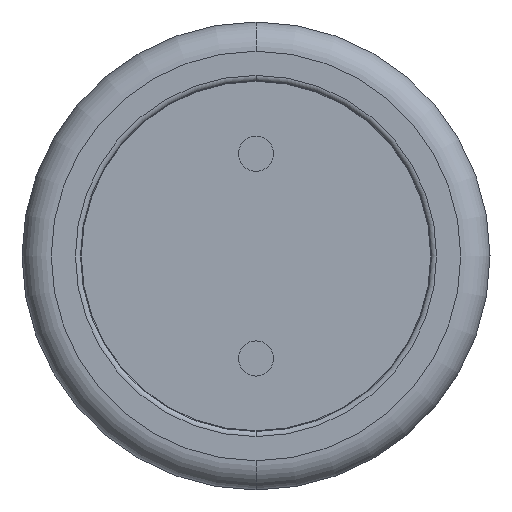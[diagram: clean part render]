
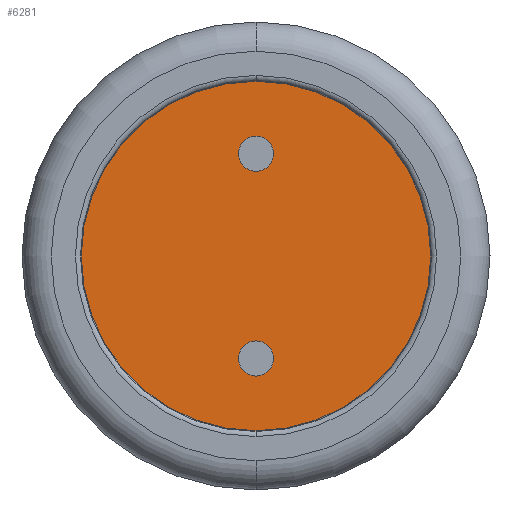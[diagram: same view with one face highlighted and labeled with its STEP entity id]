
A CAD part, left-side view. The second image highlights one B-rep face of the part: STEP entity #6281.
In plain terms, the highlighted planar face has unit normal (-1, 0, 0).
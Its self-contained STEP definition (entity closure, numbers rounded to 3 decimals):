
#40=CARTESIAN_POINT('',(-11.3,0.,0.002));
#41=DIRECTION('',(-1.,0.,0.));
#42=DIRECTION('',(0.,0.,-1.));
#43=AXIS2_PLACEMENT_3D('',#40,#41,#42);
#45=CARTESIAN_POINT('',(-11.3,0.,0.002));
#46=DIRECTION('',(1.,0.,0.));
#47=DIRECTION('',(0.,0.,-1.));
#48=AXIS2_PLACEMENT_3D('',#45,#46,#47);
#50=CARTESIAN_POINT('',(-11.3,0.,-1.75));
#51=DIRECTION('',(-1.,0.,0.));
#52=DIRECTION('',(0.,0.,-1.));
#53=AXIS2_PLACEMENT_3D('',#50,#51,#52);
#55=CARTESIAN_POINT('',(-11.3,0.,-1.75));
#56=DIRECTION('',(-1.,0.,0.));
#57=DIRECTION('',(0.,0.,1.));
#58=AXIS2_PLACEMENT_3D('',#55,#56,#57);
#60=CARTESIAN_POINT('',(-11.3,0.,1.75));
#61=DIRECTION('',(-1.,0.,0.));
#62=DIRECTION('',(0.,0.,-1.));
#63=AXIS2_PLACEMENT_3D('',#60,#61,#62);
#65=CARTESIAN_POINT('',(-11.3,0.,1.75));
#66=DIRECTION('',(-1.,0.,0.));
#67=DIRECTION('',(0.,0.,1.));
#68=AXIS2_PLACEMENT_3D('',#65,#66,#67);
#4734=CARTESIAN_POINT('',(-11.3,0.,-2.998));
#4735=VERTEX_POINT('',#4734);
#4736=CARTESIAN_POINT('',(-11.3,0.,3.002));
#4737=VERTEX_POINT('',#4736);
#4742=CARTESIAN_POINT('',(-11.3,0.,-2.05));
#4743=CARTESIAN_POINT('',(-11.3,0.,-1.45));
#4744=VERTEX_POINT('',#4742);
#4745=VERTEX_POINT('',#4743);
#4746=CARTESIAN_POINT('',(-11.3,0.,1.45));
#4747=CARTESIAN_POINT('',(-11.3,0.,2.05));
#4748=VERTEX_POINT('',#4746);
#4749=VERTEX_POINT('',#4747);
#6260=CARTESIAN_POINT('',(-11.3,0.,0.002));
#6261=DIRECTION('',(1.,0.,0.));
#6262=DIRECTION('',(0.,0.,1.));
#6263=AXIS2_PLACEMENT_3D('',#6260,#6261,#6262);
#6264=PLANE('',#6263);
#6265=ORIENTED_EDGE('',*,*,#6239,.F.);
#6266=ORIENTED_EDGE('',*,*,#6255,.T.);
#6267=EDGE_LOOP('',(#6265,#6266));
#6268=FACE_OUTER_BOUND('',#6267,.F.);
#6270=ORIENTED_EDGE('',*,*,#6269,.T.);
#6272=ORIENTED_EDGE('',*,*,#6271,.T.);
#6273=EDGE_LOOP('',(#6270,#6272));
#6274=FACE_BOUND('',#6273,.F.);
#6276=ORIENTED_EDGE('',*,*,#6275,.T.);
#6278=ORIENTED_EDGE('',*,*,#6277,.T.);
#6279=EDGE_LOOP('',(#6276,#6278));
#6280=FACE_BOUND('',#6279,.F.);
#6281=ADVANCED_FACE('',(#6268,#6274,#6280),#6264,.F.);
#44=CIRCLE('',#43,3.);
#49=CIRCLE('',#48,3.);
#54=CIRCLE('',#53,0.3);
#59=CIRCLE('',#58,0.3);
#64=CIRCLE('',#63,0.3);
#69=CIRCLE('',#68,0.3);
#6239=EDGE_CURVE('',#4735,#4737,#44,.T.);
#6255=EDGE_CURVE('',#4735,#4737,#49,.T.);
#6269=EDGE_CURVE('',#4744,#4745,#54,.T.);
#6271=EDGE_CURVE('',#4745,#4744,#59,.T.);
#6275=EDGE_CURVE('',#4748,#4749,#64,.T.);
#6277=EDGE_CURVE('',#4749,#4748,#69,.T.);
